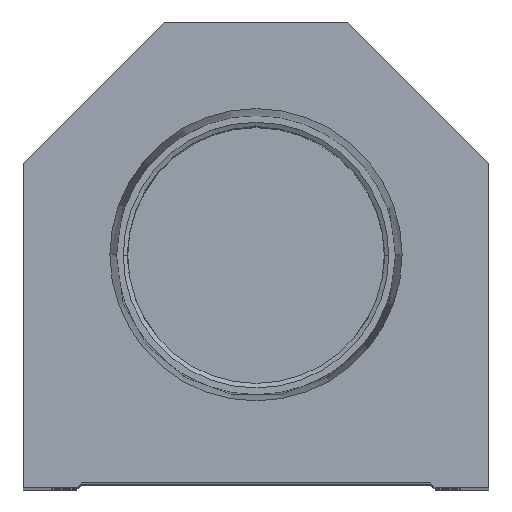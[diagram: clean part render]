
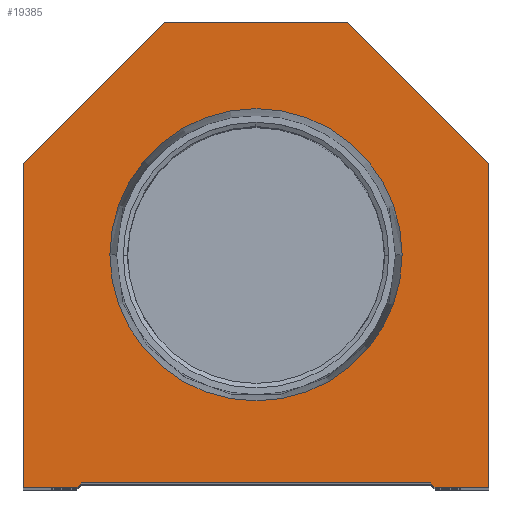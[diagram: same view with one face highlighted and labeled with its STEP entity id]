
A CAD part, top view. The second image highlights one B-rep face of the part: STEP entity #19385.
In plain terms, the highlighted planar face has unit normal (0, 0, 1).
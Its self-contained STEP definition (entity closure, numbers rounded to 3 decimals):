
#368 = EDGE_LOOP ( 'NONE', ( #958, #12630, #18347, #2602, #11747, #15801, #6449, #1184, #12403, #16783 ) ) ;
#894 = CARTESIAN_POINT ( 'NONE',  ( 10., 50.8, 0. ) ) ;
#958 = ORIENTED_EDGE ( 'NONE', *, *, #13559, .T. ) ;
#1113 = VERTEX_POINT ( 'NONE', #10653 ) ;
#1133 = CARTESIAN_POINT ( 'NONE',  ( 15.947, 25.4, 0. ) ) ;
#1184 = ORIENTED_EDGE ( 'NONE', *, *, #2030, .T. ) ;
#1208 = VECTOR ( 'NONE', #3193, 1000. ) ;
#1710 = CIRCLE ( 'NONE', #8784, 15.947 ) ;
#1747 = FACE_OUTER_BOUND ( 'NONE', #368, .T. ) ;
#1845 = CARTESIAN_POINT ( 'NONE',  ( -25.4, 35.4, 0. ) ) ;
#1944 = DIRECTION ( 'NONE',  ( -0.707, -0.707, 0. ) ) ;
#1977 = CARTESIAN_POINT ( 'NONE',  ( -25.4, 0., 0. ) ) ;
#2012 = CARTESIAN_POINT ( 'NONE',  ( 19.05, 0.5, 0. ) ) ;
#2030 = EDGE_CURVE ( 'NONE', #14197, #7958, #7020, .T. ) ;
#2249 = VECTOR ( 'NONE', #15697, 1000. ) ;
#2264 = DIRECTION ( 'NONE',  ( 0., 0., 1. ) ) ;
#2444 = LINE ( 'NONE', #11818, #3536 ) ;
#2602 = ORIENTED_EDGE ( 'NONE', *, *, #15768, .T. ) ;
#2687 = VERTEX_POINT ( 'NONE', #10947 ) ;
#3193 = DIRECTION ( 'NONE',  ( 0., 1., 0. ) ) ;
#3441 = CARTESIAN_POINT ( 'NONE',  ( 0., 0., 0. ) ) ;
#3536 = VECTOR ( 'NONE', #5556, 1000. ) ;
#3544 = LINE ( 'NONE', #9708, #9949 ) ;
#3752 = CARTESIAN_POINT ( 'NONE',  ( -19.55, 0., 0. ) ) ;
#3762 = DIRECTION ( 'NONE',  ( 1., 0., 0. ) ) ;
#3856 = VECTOR ( 'NONE', #5370, 1000. ) ;
#3946 = LINE ( 'NONE', #16266, #11667 ) ;
#4114 = DIRECTION ( 'NONE',  ( -1., 0., 0. ) ) ;
#4806 = CARTESIAN_POINT ( 'NONE',  ( 25.4, 0., 0. ) ) ;
#4963 = DIRECTION ( 'NONE',  ( 0.707, 0.707, 0. ) ) ;
#5153 = DIRECTION ( 'NONE',  ( 0.707, -0.707, 0. ) ) ;
#5358 = LINE ( 'NONE', #1845, #6697 ) ;
#5370 = DIRECTION ( 'NONE',  ( 1., 0., 0. ) ) ;
#5556 = DIRECTION ( 'NONE',  ( -0.707, 0.707, 0. ) ) ;
#5861 = CIRCLE ( 'NONE', #13956, 15.947 ) ;
#6285 = EDGE_CURVE ( 'NONE', #17566, #10960, #5861, .T. ) ;
#6449 = ORIENTED_EDGE ( 'NONE', *, *, #14489, .T. ) ;
#6575 = LINE ( 'NONE', #17083, #18122 ) ;
#6697 = VECTOR ( 'NONE', #1944, 1000. ) ;
#6733 = AXIS2_PLACEMENT_3D ( 'NONE', #3441, #18374, #12232 ) ;
#7015 = CARTESIAN_POINT ( 'NONE',  ( 25.4, 35.4, 0. ) ) ;
#7020 = LINE ( 'NONE', #8666, #8898 ) ;
#7958 = VERTEX_POINT ( 'NONE', #13276 ) ;
#8666 = CARTESIAN_POINT ( 'NONE',  ( 10., 50.8, 0. ) ) ;
#8784 = AXIS2_PLACEMENT_3D ( 'NONE', #14375, #18992, #17677 ) ;
#8898 = VECTOR ( 'NONE', #4114, 1000. ) ;
#9180 = EDGE_CURVE ( 'NONE', #10726, #9873, #11060, .T. ) ;
#9418 = CARTESIAN_POINT ( 'NONE',  ( -19.05, 0., 0. ) ) ;
#9516 = PLANE ( 'NONE',  #6733 ) ;
#9708 = CARTESIAN_POINT ( 'NONE',  ( -9.775, 9.775, 0. ) ) ;
#9873 = VERTEX_POINT ( 'NONE', #7015 ) ;
#9949 = VECTOR ( 'NONE', #4963, 1000. ) ;
#10653 = CARTESIAN_POINT ( 'NONE',  ( -25.4, 35.4, 0. ) ) ;
#10726 = VERTEX_POINT ( 'NONE', #14063 ) ;
#10947 = CARTESIAN_POINT ( 'NONE',  ( -19.05, 0.5, 0. ) ) ;
#10960 = VERTEX_POINT ( 'NONE', #1133 ) ;
#11060 = LINE ( 'NONE', #4806, #1208 ) ;
#11228 = VERTEX_POINT ( 'NONE', #2012 ) ;
#11529 = CARTESIAN_POINT ( 'NONE',  ( 0., 25.4, 0. ) ) ;
#11667 = VECTOR ( 'NONE', #5153, 1000. ) ;
#11728 = EDGE_CURVE ( 'NONE', #14635, #10726, #6575, .T. ) ;
#11747 = ORIENTED_EDGE ( 'NONE', *, *, #11728, .T. ) ;
#11818 = CARTESIAN_POINT ( 'NONE',  ( 25.4, 35.4, 0. ) ) ;
#12053 = ORIENTED_EDGE ( 'NONE', *, *, #15653, .F. ) ;
#12232 = DIRECTION ( 'NONE',  ( 1., 0., 0. ) ) ;
#12403 = ORIENTED_EDGE ( 'NONE', *, *, #13744, .T. ) ;
#12445 = FACE_BOUND ( 'NONE', #15583, .T. ) ;
#12630 = ORIENTED_EDGE ( 'NONE', *, *, #13781, .T. ) ;
#12860 = VECTOR ( 'NONE', #13966, 1000. ) ;
#13159 = LINE ( 'NONE', #19203, #3856 ) ;
#13276 = CARTESIAN_POINT ( 'NONE',  ( -10., 50.8, 0. ) ) ;
#13559 = EDGE_CURVE ( 'NONE', #16879, #18404, #18382, .T. ) ;
#13744 = EDGE_CURVE ( 'NONE', #7958, #1113, #5358, .T. ) ;
#13781 = EDGE_CURVE ( 'NONE', #18404, #2687, #3544, .T. ) ;
#13956 = AXIS2_PLACEMENT_3D ( 'NONE', #11529, #2264, #3762 ) ;
#13966 = DIRECTION ( 'NONE',  ( 1., 0., 0. ) ) ;
#14063 = CARTESIAN_POINT ( 'NONE',  ( 25.4, 0., 0. ) ) ;
#14197 = VERTEX_POINT ( 'NONE', #894 ) ;
#14375 = CARTESIAN_POINT ( 'NONE',  ( 0., 25.4, 0. ) ) ;
#14489 = EDGE_CURVE ( 'NONE', #9873, #14197, #2444, .T. ) ;
#14635 = VERTEX_POINT ( 'NONE', #17053 ) ;
#15522 = CARTESIAN_POINT ( 'NONE',  ( -25.4, 0., 0. ) ) ;
#15583 = EDGE_LOOP ( 'NONE', ( #12053, #19944 ) ) ;
#15653 = EDGE_CURVE ( 'NONE', #10960, #17566, #1710, .T. ) ;
#15697 = DIRECTION ( 'NONE',  ( 0., -1., 0. ) ) ;
#15768 = EDGE_CURVE ( 'NONE', #11228, #14635, #3946, .T. ) ;
#15784 = LINE ( 'NONE', #1977, #2249 ) ;
#15801 = ORIENTED_EDGE ( 'NONE', *, *, #9180, .T. ) ;
#16266 = CARTESIAN_POINT ( 'NONE',  ( 9.775, 9.775, 0. ) ) ;
#16783 = ORIENTED_EDGE ( 'NONE', *, *, #18059, .T. ) ;
#16879 = VERTEX_POINT ( 'NONE', #15522 ) ;
#17053 = CARTESIAN_POINT ( 'NONE',  ( 19.55, 0., 0. ) ) ;
#17083 = CARTESIAN_POINT ( 'NONE',  ( 19.05, 0., 0. ) ) ;
#17197 = DIRECTION ( 'NONE',  ( 1., 0., 0. ) ) ;
#17566 = VERTEX_POINT ( 'NONE', #19405 ) ;
#17677 = DIRECTION ( 'NONE',  ( 1., 0., 0. ) ) ;
#18059 = EDGE_CURVE ( 'NONE', #1113, #16879, #15784, .T. ) ;
#18122 = VECTOR ( 'NONE', #17197, 1000. ) ;
#18347 = ORIENTED_EDGE ( 'NONE', *, *, #18493, .T. ) ;
#18374 = DIRECTION ( 'NONE',  ( 0., 0., 1. ) ) ;
#18382 = LINE ( 'NONE', #9418, #12860 ) ;
#18404 = VERTEX_POINT ( 'NONE', #3752 ) ;
#18493 = EDGE_CURVE ( 'NONE', #2687, #11228, #13159, .T. ) ;
#18992 = DIRECTION ( 'NONE',  ( 0., 0., 1. ) ) ;
#19203 = CARTESIAN_POINT ( 'NONE',  ( -19.05, 0.5, 0. ) ) ;
#19385 = ADVANCED_FACE ( 'NONE', ( #12445, #1747 ), #9516, .T. ) ;
#19405 = CARTESIAN_POINT ( 'NONE',  ( -15.947, 25.4, 0. ) ) ;
#19944 = ORIENTED_EDGE ( 'NONE', *, *, #6285, .F. ) ;
